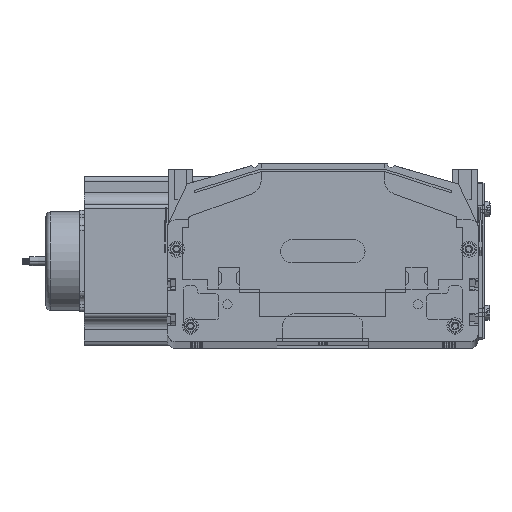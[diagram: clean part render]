
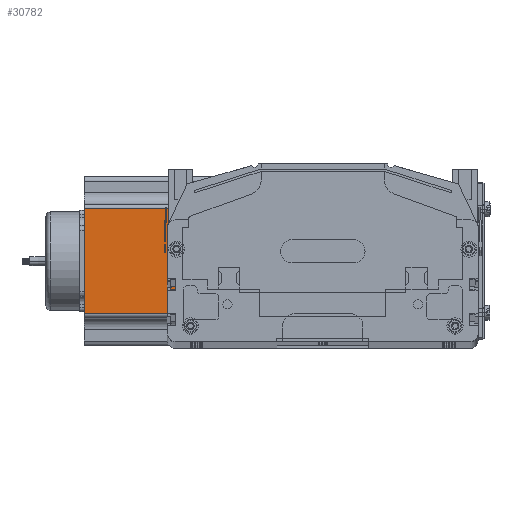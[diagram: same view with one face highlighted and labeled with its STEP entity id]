
A CAD part, top view. The second image highlights one B-rep face of the part: STEP entity #30782.
In plain terms, the highlighted planar face has unit normal (0, 0, 1) as drawn and (0, -1, 0) by its records, which use the part's own axes.
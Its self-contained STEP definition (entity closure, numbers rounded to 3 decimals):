
#29776 = EDGE_CURVE ( 'NONE', #29777, #30370, #72886, .T. ) ;
#29777 = VERTEX_POINT ( 'NONE', #72923 ) ;
#29792 = ORIENTED_EDGE ( 'NONE', *, *, #29776, .F. ) ;
#29794 = EDGE_CURVE ( 'NONE', #29777, #30340, #72856, .T. ) ;
#30340 = VERTEX_POINT ( 'NONE', #78715 ) ;
#30346 = EDGE_LOOP ( 'NONE', ( #30785, #30783, #29792, #30369 ) ) ;
#30369 = ORIENTED_EDGE ( 'NONE', *, *, #29794, .T. ) ;
#30370 = VERTEX_POINT ( 'NONE', #78697 ) ;
#30383 = VERTEX_POINT ( 'NONE', #78736 ) ;
#30740 = EDGE_CURVE ( 'NONE', #30340, #30383, #78576, .T. ) ;
#30782 = ADVANCED_FACE ( 'NONE', ( #78448 ), #78522, .F. ) ;
#30783 = ORIENTED_EDGE ( 'NONE', *, *, #30786, .T. ) ;
#30785 = ORIENTED_EDGE ( 'NONE', *, *, #30740, .T. ) ;
#30786 = EDGE_CURVE ( 'NONE', #30383, #30370, #78431, .T. ) ;
#72764 = VECTOR ( 'NONE', #72938, 1000. ) ;
#72856 = LINE ( 'NONE', #72939, #72764 ) ;
#72886 = LINE ( 'NONE', #72920, #72918 ) ;
#72917 = DIRECTION ( 'NONE',  ( 1., 0., 0. ) ) ;
#72918 = VECTOR ( 'NONE', #72917, 1000. ) ;
#72920 = CARTESIAN_POINT ( 'NONE',  ( 0., 0., 160.5 ) ) ;
#72923 = CARTESIAN_POINT ( 'NONE',  ( 21.048, 0., 160.5 ) ) ;
#72938 = DIRECTION ( 'NONE',  ( 0., 0., -1. ) ) ;
#72939 = CARTESIAN_POINT ( 'NONE',  ( 21.048, 0., 160.5 ) ) ;
#78431 = LINE ( 'NONE', #78476, #78475 ) ;
#78437 = DIRECTION ( 'NONE',  ( 0., 0., 1. ) ) ;
#78438 = DIRECTION ( 'NONE',  ( 0., 1., 0. ) ) ;
#78439 = CARTESIAN_POINT ( 'NONE',  ( 0., 0., 160.5 ) ) ;
#78448 = FACE_OUTER_BOUND ( 'NONE', #30346, .T. ) ;
#78474 = DIRECTION ( 'NONE',  ( 0., 0., 1. ) ) ;
#78475 = VECTOR ( 'NONE', #78474, 1000. ) ;
#78476 = CARTESIAN_POINT ( 'NONE',  ( 88.952, 0., 160.5 ) ) ;
#78522 = PLANE ( 'NONE',  #78575 ) ;
#78572 = DIRECTION ( 'NONE',  ( 1., 0., 0. ) ) ;
#78573 = VECTOR ( 'NONE', #78572, 1000. ) ;
#78574 = CARTESIAN_POINT ( 'NONE',  ( 0., 0., 0. ) ) ;
#78575 = AXIS2_PLACEMENT_3D ( 'NONE', #78439, #78438, #78437 ) ;
#78576 = LINE ( 'NONE', #78574, #78573 ) ;
#78697 = CARTESIAN_POINT ( 'NONE',  ( 88.952, 0., 160.5 ) ) ;
#78715 = CARTESIAN_POINT ( 'NONE',  ( 21.048, 0., 0. ) ) ;
#78736 = CARTESIAN_POINT ( 'NONE',  ( 88.952, 0., 0. ) ) ;
